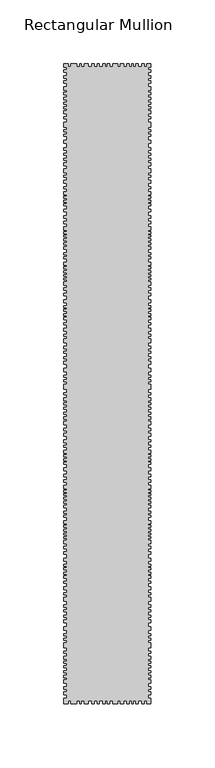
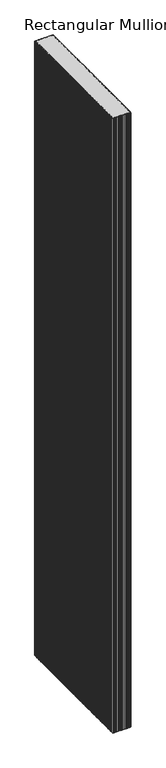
"""IFC4 building model written with IfcOpenShell, lengths in millimetres: member geometry, Rectangular Mullion : DucoSun Cubic Design louvre 500."""

from ifc_helpers import new_model, si_unit, frame, origin, place, context, project, spatial, polyline, outline, extrude, source, transform, mapped, element, save


def rectangular_mullion_b98209d4(model_context):
    return source(origin(), model_context, "Body", "SweptSolid", [
        extrude(outline(polyline([(-68.0, 497.3782451), (-68.0, 500.0), (-64.4544414, 500.0), (-64.4544414, 498.0), (-62.627942, 498.0), (-62.627942, 500.0), (-57.9842994, 500.0), (-57.9842994, 498.0), (-55.8172663, 498.0), (-55.8172663, 500.0), (-54.3003431, 500.0), (-54.3003431, 498.0), (-51.9475642, 498.0), (-51.9475642, 500.0), (-48.8827601, 500.0), (-48.8827601, 498.0), (-46.0965746, 498.0), (-46.0965746, 500.0), (-44.3939057, 500.0), (-44.3939057, 498.0), (-42.0101692, 498.0), (-42.0101692, 500.0), (-40.5242036, 500.0), (-40.5242036, 498.0), (-37.4884678, 498.0), (-37.4884678, 500.0), (-35.7094289, 500.0), (-35.7094289, 498.0), (-34.0, 498.0), (-34.0, 500.0), (-32.1513512, 500.0), (-32.1513512, 498.0), (-29.7871022, 498.0), (-29.7871022, 500.0), (-26.0183489, 500.0), (-26.0183489, 498.0), (-23.9584092, 498.0), (-23.9584092, 500.0), (-21.2664425, 500.0), (-21.2664425, 498.0), (-18.9958271, 498.0), (-18.9958271, 500.0), (-17.1231547, 500.0), (-17.1231547, 498.0), (-15.0632149, 498.0), (-15.0632149, 500.0), (-13.7289358, 500.0), (-13.7289358, 498.0), (-11.6924045, 498.0), (-11.6924045, 500.0), (-10.1006329, 500.0), (-10.1006329, 498.0), (-7.0341317, 498.0), (-7.0341317, 500.0), (-5.0678256, 500.0), (-5.0678256, 498.0), (-3.1249279, 498.0), (-3.1249279, 500.0), (0.0, 500.0), (0.0, 497.3782451), (-2.0, 497.3782451), (-2.0, 495.4241521), (0.0, 495.4241521), (0.0, 493.6532553), (-2.0, 493.6532553), (-2.0, 490.9460223), (0.0, 490.9460223), (0.0, 488.9105087), (-2.0, 488.9105087), (-2.0, 486.7121541), (0.0, 486.7121541), (0.0, 485.0023227), (-2.0, 485.0023227), (-2.0, 482.3561551), (0.0, 482.3561551), (0.0, 479.3843053), (-2.0, 479.3843053), (-2.0, 477.8917893), (0.0, 477.8917893), (0.0, 475.8425117), (-2.0, 475.8425117), (-2.0, 473.8680636), (0.0, 473.8680636), (0.0, 472.1582322), (-2.0, 472.1582322), (-2.0, 470.0820083), (0.0, 470.0820083), (0.0, 468.3111116), (-2.0, 468.3111116), (-2.0, 466.4995045), (0.0, 466.4995045), (0.0, 465.0713495), (-2.0, 465.0713495), (-2.0, 463.4577392), (0.0, 463.4577392), (0.0, 461.0328231), (-2.0, 461.0328231), (-2.0, 458.5725067), (0.0, 458.5725067), (0.0, 457.0325964), (-2.0, 457.0325964), (-2.0, 454.5014796), (0.0, 454.5014796), (0.0, 450.4127524), (-2.0, 450.4127524), (-2.0, 448.4126391), (0.0, 448.4126391), (0.0, 446.8373286), (-2.0, 446.8373286), (-2.0, 444.9965163), (0.0, 444.9965163), (0.0, 443.3504053), (-2.0, 443.3504053), (-2.0, 440.3767855), (0.0, 440.3767855), (0.0, 437.9545244), (-2.0, 437.9545244), (-2.0, 434.5552168), (0.0, 434.5552168), (0.0, 432.5197032), (-2.0, 432.5197032), (-2.0, 430.239928), (0.0, 430.239928), (0.0, 428.6929377), (-2.0, 428.6929377), (-2.0, 426.4335177), (0.0, 426.4335177), (0.0, 424.5608452), (-2.0, 424.5608452), (-2.0, 422.6271073), (0.0, 422.6271073), (0.0, 420.5508835), (-2.0, 420.5508835), (-2.0, 418.0064916), (0.0, 418.0064916), (0.0, 414.9328661), (-2.0, 414.9328661), (-2.0, 412.9177077), (0.0, 412.9177077), (0.0, 411.4114277), (-2.0, 411.4114277), (-2.0, 408.9688114), (0.0, 408.9688114), (0.0, 406.7118273), (-2.0, 406.7118273), (-2.0, 403.8852623), (0.0, 403.8852623), (0.0, 402.4316003), (-2.0, 402.4316003), (-2.0, 399.9011516), (0.0, 399.9011516), (0.0, 397.8552569), (-2.0, 397.8552569), (-2.0, 396.6169522), (0.0, 396.6169522), (0.0, 395.0825312), (-2.0, 395.0825312), (-2.0, 393.4673512), (0.0, 393.4673512), (0.0, 392.0675286), (-2.0, 392.0675286), (-2.0, 390.5869469), (0.0, 390.5869469), (0.0, 389.1602046), (-2.0, 389.1602046), (-2.0, 386.3310055), (0.0, 386.3310055), (0.0, 384.2608252), (-2.0, 384.2608252), (-2.0, 381.1919832), (0.0, 381.1919832), (0.0, 379.2537672), (-2.0, 379.2537672), (-2.0, 376.9360418), (0.0, 376.9360418), (0.0, 375.0004598), (-2.0, 375.0004598), (-2.0, 372.9007258), (0.0, 372.9007258), (0.0, 370.1010805), (-2.0, 370.1010805), (-2.0, 368.8089365), (0.0, 368.8089365), (0.0, 367.3014351), (-2.0, 367.3014351), (-2.0, 366.0362108), (0.0, 366.0362108), (0.0, 365.0401831), (-2.0, 365.0401831), (-2.0, 363.2096458), (0.0, 363.2096458), (0.0, 361.6483051), (-2.0, 361.6483051), (-2.0, 360.1408038), (0.0, 360.1408038), (0.0, 358.6063828), (-2.0, 358.6063828), (-2.0, 357.0719618), (0.0, 357.0719618), (0.0, 355.0799064), (-2.0, 355.0799064), (-2.0, 352.3762692), (0.0, 352.3762692), (0.0, 350.8903036), (-2.0, 350.8903036), (-2.0, 349.1257194), (0.0, 349.1257194), (0.0, 347.6087962), (-2.0, 347.6087962), (-2.0, 344.8535683), (0.0, 344.8535683), (0.0, 342.7484504), (-2.0, 342.7484504), (-2.0, 341.4172729), (0.0, 341.4172729), (0.0, 339.9622649), (-2.0, 339.9622649), (-2.0, 338.3524688), (0.0, 338.3524688), (0.0, 336.8355456), (-2.0, 336.8355456), (-2.0, 335.1947919), (0.0, 335.1947919), (0.0, 333.9255296), (-2.0, 333.9255296), (-2.0, 332.5014792), (0.0, 332.5014792), (0.0, 331.1083865), (-2.0, 331.1083865), (-2.0, 329.6843361), (0.0, 329.6843361), (0.0, 327.0529387), (-2.0, 327.0529387), (-2.0, 324.9787784), (0.0, 324.9787784), (0.0, 323.0284485), (-2.0, 323.0284485), (-2.0, 320.7995001), (0.0, 320.7995001), (0.0, 318.8182126), (-2.0, 318.8182126), (-2.0, 315.6914933), (0.0, 315.6914933), (0.0, 313.4935025), (-2.0, 313.4935025), (-2.0, 310.954978), (0.0, 310.954978), (0.0, 309.4070971), (-2.0, 309.4070971), (-2.0, 308.1378348), (0.0, 308.1378348), (0.0, 306.4970812), (-2.0, 306.4970812), (-2.0, 304.8253698), (0.0, 304.8253698), (0.0, 303.3394042), (-2.0, 303.3394042), (-2.0, 302.0391843), (0.0, 302.0391843), (0.0, 300.0578969), (-2.0, 300.0578969), (-2.0, 297.6741604), (0.0, 297.6741604), (0.0, 296.0953219), (-2.0, 296.0953219), (-2.0, 293.3091364), (0.0, 293.3091364), (0.0, 291.0182728), (-2.0, 291.0182728), (-2.0, 288.572621), (0.0, 288.572621), (0.0, 287.1485707), (-2.0, 287.1485707), (-2.0, 285.0124951), (0.0, 285.0124951), (0.0, 282.1643944), (-2.0, 282.1643944), (-2.0, 279.3782089), (0.0, 279.3782089), (0.0, 277.427879), (-2.0, 277.427879), (-2.0, 275.4156339), (0.0, 275.4156339), (0.0, 273.6510498), (-2.0, 273.6510498), (-2.0, 271.1744404), (0.0, 271.1744404), (0.0, 269.6884748), (-2.0, 269.6884748), (-2.0, 267.5523993), (0.0, 267.5523993), (0.0, 265.4163237), (-2.0, 265.4163237), (-2.0, 262.1967316), (0.0, 262.1967316), (0.0, 259.5343765), (-2.0, 259.5343765), (-2.0, 256.7791486), (0.0, 256.7791486), (0.0, 255.0764797), (-2.0, 255.0764797), (-2.0, 252.9404041), (0.0, 252.9404041), (0.0, 251.6092266), (-2.0, 251.6092266), (-2.0, 249.5660239), (0.0, 249.5660239), (0.0, 245.512038), (-2.0, 245.512038), (-2.0, 243.0030092), (0.0, 243.0030092), (0.0, 241.3312979), (-2.0, 241.3312979), (-2.0, 239.0404342), (0.0, 239.0404342), (0.0, 236.5638249), (-2.0, 236.5638249), (-2.0, 235.015944), (0.0, 235.015944), (0.0, 233.5609361), (-2.0, 233.5609361), (-2.0, 231.5796486), (0.0, 231.5796486), (0.0, 230.0627254), (-2.0, 230.0627254), (-2.0, 227.8337769), (0.0, 227.8337769), (0.0, 226.1620656), (-2.0, 226.1620656), (-2.0, 224.0259901), (0.0, 224.0259901), (0.0, 222.0756602), (-2.0, 222.0756602), (-2.0, 220.6516099), (0.0, 220.6516099), (0.0, 217.7415939), (-2.0, 217.7415939), (-2.0, 215.2030693), (0.0, 215.2030693), (0.0, 213.1908242), (-2.0, 213.1908242), (-2.0, 211.2404944), (0.0, 211.2404944), (0.0, 209.1353764), (-2.0, 209.1353764), (-2.0, 206.2563181), (0.0, 206.2563181), (0.0, 204.6155644), (-2.0, 204.6155644), (-2.0, 201.7889994), (0.0, 201.7889994), (0.0, 200.3353374), (-2.0, 200.3353374), (-2.0, 197.8048887), (0.0, 197.8048887), (0.0, 195.758994), (-2.0, 195.758994), (-2.0, 194.5206893), (0.0, 194.5206893), (0.0, 192.9862683), (-2.0, 192.9862683), (-2.0, 191.3710883), (0.0, 191.3710883), (0.0, 189.9712657), (-2.0, 189.9712657), (-2.0, 188.490684), (0.0, 188.490684), (0.0, 187.0639417), (-2.0, 187.0639417), (-2.0, 184.2347426), (0.0, 184.2347426), (0.0, 182.1645623), (-2.0, 182.1645623), (-2.0, 179.0957203), (0.0, 179.0957203), (0.0, 177.1575043), (-2.0, 177.1575043), (-2.0, 174.8397789), (0.0, 174.8397789), (0.0, 172.9041969), (-2.0, 172.9041969), (-2.0, 170.8044629), (0.0, 170.8044629), (0.0, 168.0048176), (-2.0, 168.0048176), (-2.0, 166.7126736), (0.0, 166.7126736), (0.0, 165.2051722), (-2.0, 165.2051722), (-2.0, 163.9399479), (0.0, 163.9399479), (0.0, 162.9439202), (-2.0, 162.9439202), (-2.0, 161.1133829), (0.0, 161.1133829), (0.0, 159.5520422), (-2.0, 159.5520422), (-2.0, 158.0445409), (0.0, 158.0445409), (0.0, 156.5101199), (-2.0, 156.5101199), (-2.0, 154.9756989), (0.0, 154.9756989), (0.0, 152.9836435), (-2.0, 152.9836435), (-2.0, 150.2800063), (0.0, 150.2800063), (0.0, 148.7940407), (-2.0, 148.7940407), (-2.0, 147.0294565), (0.0, 147.0294565), (0.0, 145.5125333), (-2.0, 145.5125333), (-2.0, 142.7573054), (0.0, 142.7573054), (0.0, 140.6521875), (-2.0, 140.6521875), (-2.0, 139.32101), (0.0, 139.32101), (0.0, 137.866002), (-2.0, 137.866002), (-2.0, 136.2562059), (0.0, 136.2562059), (0.0, 134.7392827), (-2.0, 134.7392827), (-2.0, 133.098529), (0.0, 133.098529), (0.0, 131.8292667), (-2.0, 131.8292667), (-2.0, 130.4052163), (0.0, 130.4052163), (0.0, 129.0121236), (-2.0, 129.0121236), (-2.0, 127.5880732), (0.0, 127.5880732), (0.0, 124.9566758), (-2.0, 124.9566758), (-2.0, 122.8825155), (0.0, 122.8825155), (0.0, 120.9321856), (-2.0, 120.9321856), (-2.0, 118.7032372), (0.0, 118.7032372), (0.0, 116.7219497), (-2.0, 116.7219497), (-2.0, 113.5952304), (0.0, 113.5952304), (0.0, 111.3972396), (-2.0, 111.3972396), (-2.0, 108.8587151), (0.0, 108.8587151), (0.0, 107.3108342), (-2.0, 107.3108342), (-2.0, 106.0415719), (0.0, 106.0415719), (0.0, 104.4008183), (-2.0, 104.4008183), (-2.0, 102.7291069), (0.0, 102.7291069), (0.0, 101.2431413), (-2.0, 101.2431413), (-2.0, 99.9429214), (0.0, 99.9429214), (0.0, 97.961634), (-2.0, 97.961634), (-2.0, 95.5778975), (0.0, 95.5778975), (0.0, 93.999059), (-2.0, 93.999059), (-2.0, 91.2128735), (0.0, 91.2128735), (0.0, 88.9220099), (-2.0, 88.9220099), (-2.0, 86.4763581), (0.0, 86.4763581), (0.0, 85.0523078), (-2.0, 85.0523078), (-2.0, 82.9162322), (0.0, 82.9162322), (0.0, 80.0681315), (-2.0, 80.0681315), (-2.0, 77.281946), (0.0, 77.281946), (0.0, 75.3316161), (-2.0, 75.3316161), (-2.0, 73.319371), (0.0, 73.319371), (0.0, 71.5547869), (-2.0, 71.5547869), (-2.0, 69.0781775), (0.0, 69.0781775), (0.0, 67.5922119), (-2.0, 67.5922119), (-2.0, 65.4561364), (0.0, 65.4561364), (0.0, 63.3200608), (-2.0, 63.3200608), (-2.0, 60.1004687), (0.0, 60.1004687), (0.0, 57.4381136), (-2.0, 57.4381136), (-2.0, 54.6828857), (0.0, 54.6828857), (0.0, 52.9802168), (-2.0, 52.9802168), (-2.0, 50.8441412), (0.0, 50.8441412), (0.0, 49.5129637), (-2.0, 49.5129637), (-2.0, 47.469761), (0.0, 47.469761), (0.0, 43.4157751), (-2.0, 43.4157751), (-2.0, 40.9067463), (0.0, 40.9067463), (0.0, 39.235035), (-2.0, 39.235035), (-2.0, 36.9441713), (0.0, 36.9441713), (0.0, 34.467562), (-2.0, 34.467562), (-2.0, 32.9196811), (0.0, 32.9196811), (0.0, 31.4646731), (-2.0, 31.4646731), (-2.0, 29.4833857), (0.0, 29.4833857), (0.0, 27.9664625), (-2.0, 27.9664625), (-2.0, 25.737514), (0.0, 25.737514), (0.0, 24.0658027), (-2.0, 24.0658027), (-2.0, 21.9297272), (0.0, 21.9297272), (0.0, 19.9793973), (-2.0, 19.9793973), (-2.0, 18.555347), (0.0, 18.555347), (0.0, 15.645331), (-2.0, 15.645331), (-2.0, 13.1068064), (0.0, 13.1068064), (0.0, 11.0945613), (-2.0, 11.0945613), (-2.0, 9.1442315), (0.0, 9.1442315), (0.0, 7.0391135), (-2.0, 7.0391135), (-2.0, 4.0), (0.0, 4.0), (0.0, 0.0), (-3.1249279, 0.0), (-3.1249279, 2.0), (-5.0678256, 2.0), (-5.0678256, 0.0), (-7.0341317, 0.0), (-7.0341317, 2.0), (-10.1006329, 2.0), (-10.1006329, 0.0), (-11.6924045, 0.0), (-11.6924045, 2.0), (-13.7289358, 2.0), (-13.7289358, 0.0), (-15.0632149, 0.0), (-15.0632149, 2.0), (-17.1231547, 2.0), (-17.1231547, 0.0), (-18.9958271, 0.0), (-18.9958271, 2.0), (-21.2664425, 2.0), (-21.2664425, 0.0), (-23.9584092, 0.0), (-23.9584092, 2.0), (-26.0183489, 2.0), (-26.0183489, 0.0), (-29.7871022, 0.0), (-29.7871022, 2.0), (-32.1513512, 2.0), (-32.1513512, 0.0), (-34.0, 0.0), (-34.0, 2.0), (-35.7094289, 2.0), (-35.7094289, 0.0), (-37.4884678, 0.0), (-37.4884678, 2.0), (-40.5242036, 2.0), (-40.5242036, 0.0), (-42.0101692, 0.0), (-42.0101692, 2.0), (-44.3939057, 2.0), (-44.3939057, 0.0), (-46.0965746, 0.0), (-46.0965746, 2.0), (-48.8827601, 2.0), (-48.8827601, 0.0), (-51.9475642, 0.0), (-51.9475642, 2.0), (-54.3003431, 2.0), (-54.3003431, 0.0), (-55.8172663, 0.0), (-55.8172663, 2.0), (-57.9842994, 2.0), (-57.9842994, 0.0), (-62.627942, 0.0), (-62.627942, 2.0), (-64.4544414, 2.0), (-64.4544414, 0.0), (-68.0, 0.0), (-68.0, 4.0), (-66.0, 4.0), (-66.0, 7.0391135), (-68.0, 7.0391135), (-68.0, 9.1442315), (-66.0, 9.1442315), (-66.0, 11.0945613), (-68.0, 11.0945613), (-68.0, 13.1068064), (-66.0, 13.1068064), (-66.0, 15.645331), (-68.0, 15.645331), (-68.0, 18.555347), (-66.0, 18.555347), (-66.0, 19.9793973), (-68.0, 19.9793973), (-68.0, 21.9297272), (-66.0, 21.9297272), (-66.0, 24.0658027), (-68.0, 24.0658027), (-68.0, 25.737514), (-66.0, 25.737514), (-66.0, 27.9664625), (-68.0, 27.9664625), (-68.0, 29.4833857), (-66.0, 29.4833857), (-66.0, 31.4646731), (-68.0, 31.4646731), (-68.0, 32.9196811), (-66.0, 32.9196811), (-66.0, 34.467562), (-68.0, 34.467562), (-68.0, 36.9441713), (-66.0, 36.9441713), (-66.0, 39.235035), (-68.0, 39.235035), (-68.0, 40.9067463), (-66.0, 40.9067463), (-66.0, 43.4157751), (-68.0, 43.4157751), (-68.0, 47.469761), (-66.0, 47.469761), (-66.0, 49.5129637), (-68.0, 49.5129637), (-68.0, 50.8441412), (-66.0, 50.8441412), (-66.0, 52.9802168), (-68.0, 52.9802168), (-68.0, 54.6828857), (-66.0, 54.6828857), (-66.0, 57.4381136), (-68.0, 57.4381136), (-68.0, 60.1004687), (-66.0, 60.1004687), (-66.0, 63.3200608), (-68.0, 63.3200608), (-68.0, 65.4561364), (-66.0, 65.4561364), (-66.0, 67.5922119), (-68.0, 67.5922119), (-68.0, 69.0781775), (-66.0, 69.0781775), (-66.0, 71.5547869), (-68.0, 71.5547869), (-68.0, 73.319371), (-66.0, 73.319371), (-66.0, 75.3316161), (-68.0, 75.3316161), (-68.0, 77.281946), (-66.0, 77.281946), (-66.0, 80.0681315), (-68.0, 80.0681315), (-68.0, 82.9162322), (-66.0, 82.9162322), (-66.0, 85.0523078), (-68.0, 85.0523078), (-68.0, 86.4763581), (-66.0, 86.4763581), (-66.0, 88.9220099), (-68.0, 88.9220099), (-68.0, 91.2128735), (-66.0, 91.2128735), (-66.0, 93.999059), (-68.0, 93.999059), (-68.0, 95.5778975), (-66.0, 95.5778975), (-66.0, 97.961634), (-68.0, 97.961634), (-68.0, 99.9429214), (-66.0, 99.9429214), (-66.0, 101.2431413), (-68.0, 101.2431413), (-68.0, 102.7291069), (-66.0, 102.7291069), (-66.0, 104.4008183), (-68.0, 104.4008183), (-68.0, 106.0415719), (-66.0, 106.0415719), (-66.0, 107.3108342), (-68.0, 107.3108342), (-68.0, 108.8587151), (-66.0, 108.8587151), (-66.0, 111.3972396), (-68.0, 111.3972396), (-68.0, 113.5952304), (-66.0, 113.5952304), (-66.0, 116.7219497), (-68.0, 116.7219497), (-68.0, 118.7032372), (-66.0, 118.7032372), (-66.0, 120.9321856), (-68.0, 120.9321856), (-68.0, 122.8825155), (-66.0, 122.8825155), (-66.0, 124.9566758), (-68.0, 124.9566758), (-68.0, 127.5880732), (-66.0, 127.5880732), (-66.0, 129.0121236), (-68.0, 129.0121236), (-68.0, 130.4052163), (-66.0, 130.4052163), (-66.0, 131.8292667), (-68.0, 131.8292667), (-68.0, 133.098529), (-66.0, 133.098529), (-66.0, 134.7392827), (-68.0, 134.7392827), (-68.0, 136.2562059), (-66.0, 136.2562059), (-66.0, 137.866002), (-68.0, 137.866002), (-68.0, 139.32101), (-66.0, 139.32101), (-66.0, 140.6521875), (-68.0, 140.6521875), (-68.0, 142.7573054), (-66.0, 142.7573054), (-66.0, 145.5125333), (-68.0, 145.5125333), (-68.0, 147.0294565), (-66.0, 147.0294565), (-66.0, 148.7940407), (-68.0, 148.7940407), (-68.0, 150.2800063), (-66.0, 150.2800063), (-66.0, 152.9836435), (-68.0, 152.9836435), (-68.0, 154.9756989), (-66.0, 154.9756989), (-66.0, 156.5101199), (-68.0, 156.5101199), (-68.0, 158.0445409), (-66.0, 158.0445409), (-66.0, 159.5520422), (-68.0, 159.5520422), (-68.0, 161.1133829), (-66.0, 161.1133829), (-66.0, 162.9439202), (-68.0, 162.9439202), (-68.0, 163.9399479), (-66.0, 163.9399479), (-66.0, 165.2051722), (-68.0, 165.2051722), (-68.0, 166.7126736), (-66.0, 166.7126736), (-66.0, 168.0048176), (-68.0, 168.0048176), (-68.0, 170.8044629), (-66.0, 170.8044629), (-66.0, 172.9041969), (-68.0, 172.9041969), (-68.0, 174.8397789), (-66.0, 174.8397789), (-66.0, 177.1575043), (-68.0, 177.1575043), (-68.0, 179.0957203), (-66.0, 179.0957203), (-66.0, 182.1645623), (-68.0, 182.1645623), (-68.0, 184.2347426), (-66.0, 184.2347426), (-66.0, 187.0639417), (-68.0, 187.0639417), (-68.0, 188.490684), (-66.0, 188.490684), (-66.0, 189.9712657), (-68.0, 189.9712657), (-68.0, 191.3710883), (-66.0, 191.3710883), (-66.0, 192.9862683), (-68.0, 192.9862683), (-68.0, 194.5206893), (-66.0, 194.5206893), (-66.0, 195.758994), (-68.0, 195.758994), (-68.0, 197.8048887), (-66.0, 197.8048887), (-66.0, 200.3353374), (-68.0, 200.3353374), (-68.0, 201.7889994), (-66.0, 201.7889994), (-66.0, 203.7186411), (-68.0, 203.7186411), (-68.0, 206.2563181), (-66.0, 206.2563181), (-66.0, 209.1353764), (-68.0, 209.1353764), (-68.0, 211.2404944), (-66.0, 211.2404944), (-66.0, 213.1908242), (-68.0, 213.1908242), (-68.0, 215.2030693), (-66.0, 215.2030693), (-66.0, 217.7415939), (-68.0, 217.7415939), (-68.0, 220.6516099), (-66.0, 220.6516099), (-66.0, 222.0756602), (-68.0, 222.0756602), (-68.0, 224.0259901), (-66.0, 224.0259901), (-66.0, 226.1620656), (-68.0, 226.1620656), (-68.0, 227.8337769), (-66.0, 227.8337769), (-66.0, 230.0627254), (-68.0, 230.0627254), (-68.0, 231.5796486), (-66.0, 231.5796486), (-66.0, 233.5609361), (-68.0, 233.5609361), (-68.0, 235.015944), (-66.0, 235.015944), (-66.0, 236.5638249), (-68.0, 236.5638249), (-68.0, 239.0404342), (-66.0, 239.0404342), (-66.0, 241.3312979), (-68.0, 241.3312979), (-68.0, 243.0030092), (-66.0, 243.0030092), (-66.0, 245.512038), (-68.0, 245.512038), (-68.0, 249.5660239), (-66.0, 249.5660239), (-66.0, 251.6092266), (-68.0, 251.6092266), (-68.0, 252.9404041), (-66.0, 252.9404041), (-66.0, 255.0764797), (-68.0, 255.0764797), (-68.0, 256.7791486), (-66.0, 256.7791486), (-66.0, 259.5343765), (-68.0, 259.5343765), (-68.0, 262.1967316), (-66.0, 262.1967316), (-66.0, 265.4163237), (-68.0, 265.4163237), (-68.0, 267.5523993), (-66.0, 267.5523993), (-66.0, 269.6884748), (-68.0, 269.6884748), (-68.0, 271.1744404), (-66.0, 271.1744404), (-66.0, 273.6510498), (-68.0, 273.6510498), (-68.0, 275.4156339), (-66.0, 275.4156339), (-66.0, 277.427879), (-68.0, 277.427879), (-68.0, 279.3782089), (-66.0, 279.3782089), (-66.0, 282.1643944), (-68.0, 282.1643944), (-68.0, 285.0124951), (-66.0, 285.0124951), (-66.0, 287.1485707), (-68.0, 287.1485707), (-68.0, 288.572621), (-66.0, 288.572621), (-66.0, 291.0182728), (-68.0, 291.0182728), (-68.0, 293.3091364), (-66.0, 293.3091364), (-66.0, 296.0953219), (-68.0, 296.0953219), (-68.0, 297.6741604), (-66.0, 297.6741604), (-66.0, 300.0578969), (-68.0, 300.0578969), (-68.0, 302.0391843), (-66.0, 302.0391843), (-66.0, 303.3394042), (-68.0, 303.3394042), (-68.0, 304.8253698), (-66.0, 304.8253698), (-66.0, 306.4970812), (-68.0, 306.4970812), (-68.0, 308.1378348), (-66.0, 308.1378348), (-66.0, 309.4070971), (-68.0, 309.4070971), (-68.0, 310.954978), (-66.0, 310.954978), (-66.0, 313.4935025), (-68.0, 313.4935025), (-68.0, 315.6914933), (-66.0, 315.6914933), (-66.0, 318.8182126), (-68.0, 318.8182126), (-68.0, 320.7995001), (-66.0, 320.7995001), (-66.0, 323.0284485), (-68.0, 323.0284485), (-68.0, 324.9787784), (-66.0, 324.9787784), (-66.0, 327.0529387), (-68.0, 327.0529387), (-68.0, 329.6843361), (-66.0, 329.6843361), (-66.0, 331.1083865), (-68.0, 331.1083865), (-68.0, 332.5014792), (-66.0, 332.5014792), (-66.0, 333.9255296), (-68.0, 333.9255296), (-68.0, 335.1947919), (-66.0, 335.1947919), (-66.0, 336.8355456), (-68.0, 336.8355456), (-68.0, 338.3524688), (-66.0, 338.3524688), (-66.0, 339.9622649), (-68.0, 339.9622649), (-68.0, 341.4172729), (-66.0, 341.4172729), (-66.0, 342.7484504), (-68.0, 342.7484504), (-68.0, 344.8535683), (-66.0, 344.8535683), (-66.0, 347.6087962), (-68.0, 347.6087962), (-68.0, 349.1257194), (-66.0, 349.1257194), (-66.0, 350.8903036), (-68.0, 350.8903036), (-68.0, 352.3762692), (-66.0, 352.3762692), (-66.0, 355.0799064), (-68.0, 355.0799064), (-68.0, 357.0719618), (-66.0, 357.0719618), (-66.0, 358.6063828), (-68.0, 358.6063828), (-68.0, 360.1408038), (-66.0, 360.1408038), (-66.0, 361.6483051), (-68.0, 361.6483051), (-68.0, 363.2096458), (-66.0, 363.2096458), (-66.0, 365.0401831), (-68.0, 365.0401831), (-68.0, 366.0362108), (-66.0, 366.0362108), (-66.0, 367.3014351), (-68.0, 367.3014351), (-68.0, 368.8089365), (-66.0, 368.8089365), (-66.0, 370.1010805), (-68.0, 370.1010805), (-68.0, 372.9007258), (-66.0, 372.9007258), (-66.0, 375.0004598), (-68.0, 375.0004598), (-68.0, 376.9360418), (-66.0, 376.9360418), (-66.0, 379.2537672), (-68.0, 379.2537672), (-68.0, 381.1919832), (-66.0, 381.1919832), (-66.0, 384.2608252), (-68.0, 384.2608252), (-68.0, 386.3310055), (-66.0, 386.3310055), (-66.0, 389.1602046), (-68.0, 389.1602046), (-68.0, 390.5869469), (-66.0, 390.5869469), (-66.0, 392.0675286), (-68.0, 392.0675286), (-68.0, 393.4673512), (-66.0, 393.4673512), (-66.0, 395.0825312), (-68.0, 395.0825312), (-68.0, 396.6169522), (-66.0, 396.6169522), (-66.0, 397.8552569), (-68.0, 397.8552569), (-68.0, 399.9011516), (-66.0, 399.9011516), (-66.0, 402.4316003), (-68.0, 402.4316003), (-68.0, 403.8852623), (-66.0, 403.8852623), (-66.0, 406.7118273), (-68.0, 406.7118273), (-68.0, 408.9688114), (-66.0, 408.9688114), (-66.0, 411.4114277), (-68.0, 411.4114277), (-68.0, 412.9177077), (-66.0, 412.9177077), (-66.0, 414.9328661), (-68.0, 414.9328661), (-68.0, 418.0064916), (-66.0, 418.0064916), (-66.0, 420.5508835), (-68.0, 420.5508835), (-68.0, 422.6271073), (-66.0, 422.6271073), (-66.0, 424.5608452), (-68.0, 424.5608452), (-68.0, 426.4335177), (-66.0, 426.4335177), (-66.0, 428.6929377), (-68.0, 428.6929377), (-68.0, 430.239928), (-66.0, 430.239928), (-66.0, 432.5197032), (-68.0, 432.5197032), (-68.0, 434.5552168), (-66.0, 434.5552168), (-66.0, 437.9545244), (-68.0, 437.9545244), (-68.0, 440.3767855), (-66.0, 440.3767855), (-66.0, 443.3504053), (-68.0, 443.3504053), (-68.0, 444.9965163), (-66.0, 444.9965163), (-66.0, 446.8373286), (-68.0, 446.8373286), (-68.0, 448.4126391), (-66.0, 448.4126391), (-66.0, 450.4127524), (-68.0, 450.4127524), (-68.0, 454.5014796), (-66.0, 454.5014796), (-66.0, 457.0325964), (-68.0, 457.0325964), (-68.0, 458.5725067), (-66.0, 458.5725067), (-66.0, 461.0328231), (-68.0, 461.0328231), (-68.0, 463.4577392), (-66.0, 463.4577392), (-66.0, 465.0713495), (-68.0, 465.0713495), (-68.0, 466.4995045), (-66.0, 466.4995045), (-66.0, 468.3111116), (-68.0, 468.3111116), (-68.0, 470.0820083), (-66.0, 470.0820083), (-66.0, 472.1582322), (-68.0, 472.1582322), (-68.0, 473.8680636), (-66.0, 473.8680636), (-66.0, 475.8425117), (-68.0, 475.8425117), (-68.0, 477.8917893), (-66.0, 477.8917893), (-66.0, 479.3843053), (-68.0, 479.3843053), (-68.0, 482.3561551), (-66.0, 482.3561551), (-66.0, 485.0023227), (-68.0, 485.0023227), (-68.0, 486.7121541), (-66.0, 486.7121541), (-66.0, 488.9105087), (-68.0, 488.9105087), (-68.0, 490.9460223), (-66.0, 490.9460223), (-66.0, 493.6532553), (-68.0, 493.6532553), (-68.0, 495.4241521), (-66.0, 495.4241521), (-66.0, 497.3782451), (-68.0, 497.3782451)])), frame((0.0, 0.0, -2400.0), z_axis=(0.0, 0.0, 1.0), x_axis=(1.0, 0.0, 0.0)), (0.0, 0.0, 1.0), 2400.0),
    ])


if __name__ == "__main__":
    model = new_model("IFC4")
    model_context = context("Model", 3, world=origin())
    ifc_project = project(units=[si_unit("LENGTHUNIT", "METRE", prefix="MILLI")], contexts=[model_context])
    site = spatial("IfcSite", under=ifc_project)
    building = spatial("IfcBuilding", under=site)
    placement = place(None, origin())
    rectangular_mullion_shape = rectangular_mullion_b98209d4(model_context)
    element("IfcMember", 1, ObjectType="Rectangular Mullion : DucoSun Cubic Design louvre 500", at=placement, inside=building, context=model_context, shape_type="MappedRepresentation", body=[
        mapped(rectangular_mullion_shape, transform((0.0, 0.0, 0.0), x_axis=(1.0, 0.0, 0.0), y_axis=(0.0, 1.0, 0.0), z_axis=(0.0, 0.0, 1.0))),
    ])
    save(model, "model.ifc")
